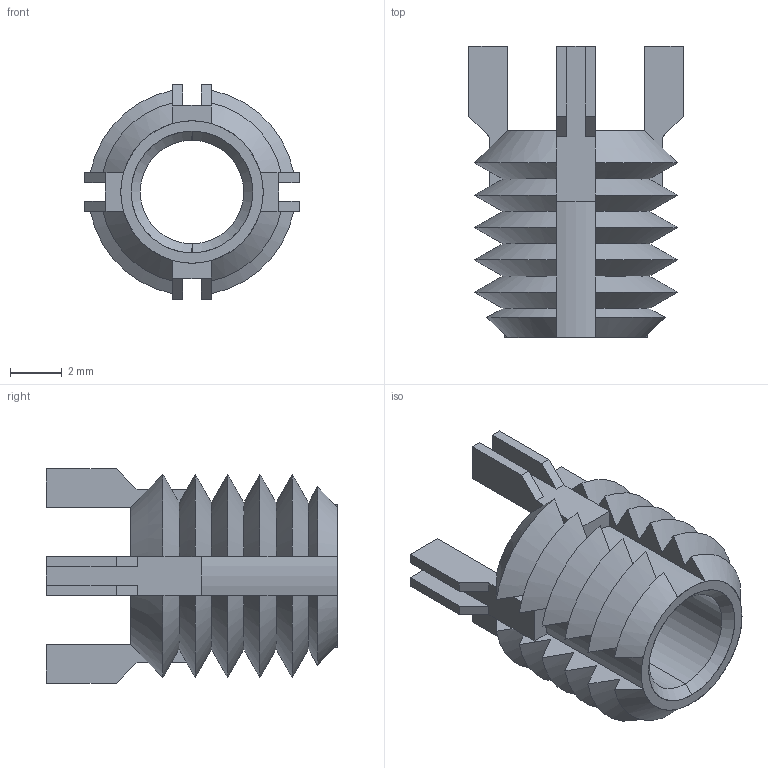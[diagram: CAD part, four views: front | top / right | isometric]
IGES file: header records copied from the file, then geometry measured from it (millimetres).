
Start section: SolidWorks IGES file using analytic representation for surfaces
Global section: file name: C:\Users\liam_\OneDrive\Documents\WORK\Work for WixRoyd\Job Files\J-00028 - Matt Davis CAD - 20191222\Wixroyd20191222\22002_v2\22002_v2_20200104_IGES\22002.W5630.igs; native system: SolidWorks 2017; preprocessor: SolidWorks 2017; author: liam_; date: 200104.213334; units: millimetre
Bounding box: 8.29 x 11.25 x 8.29 mm (x, y, z)
Surface area: 536.7 mm2 (no closed solid volume)
Topology: 0 solids, 0 shells, 132 faces, 784 edges, 784 vertices
Faces by surface type: bspline 74, revolution 58
